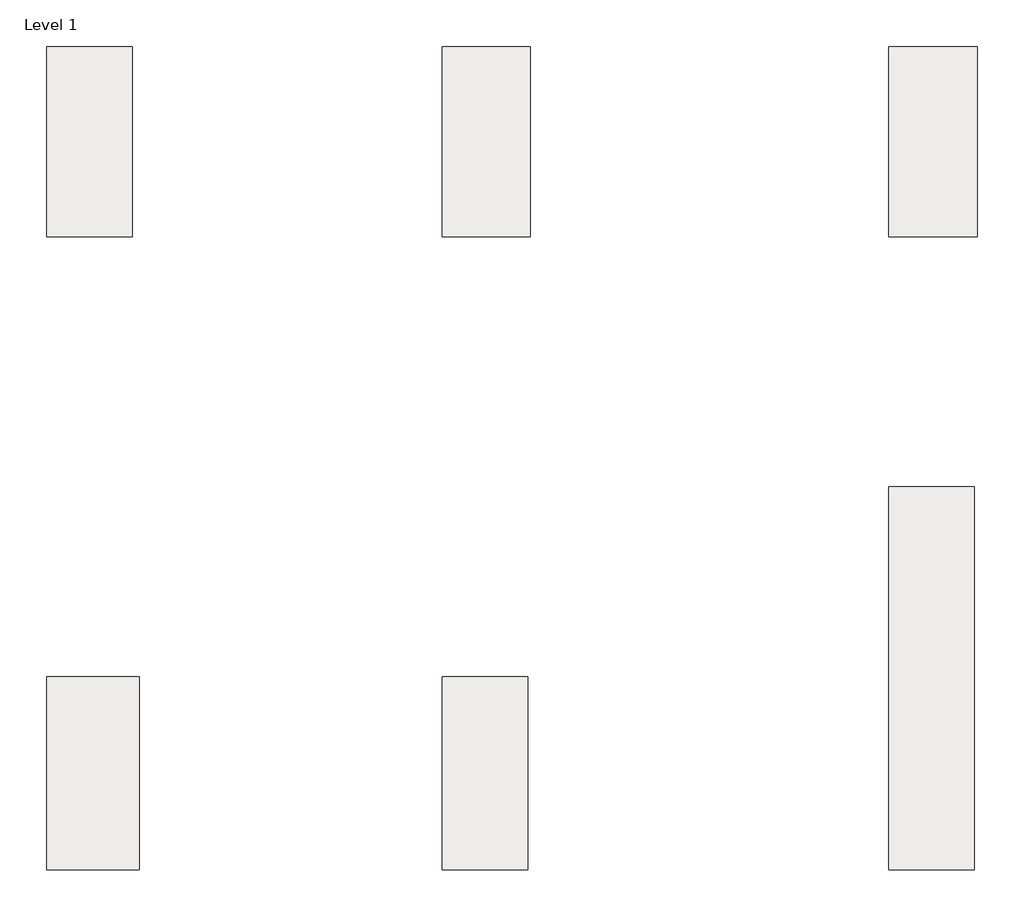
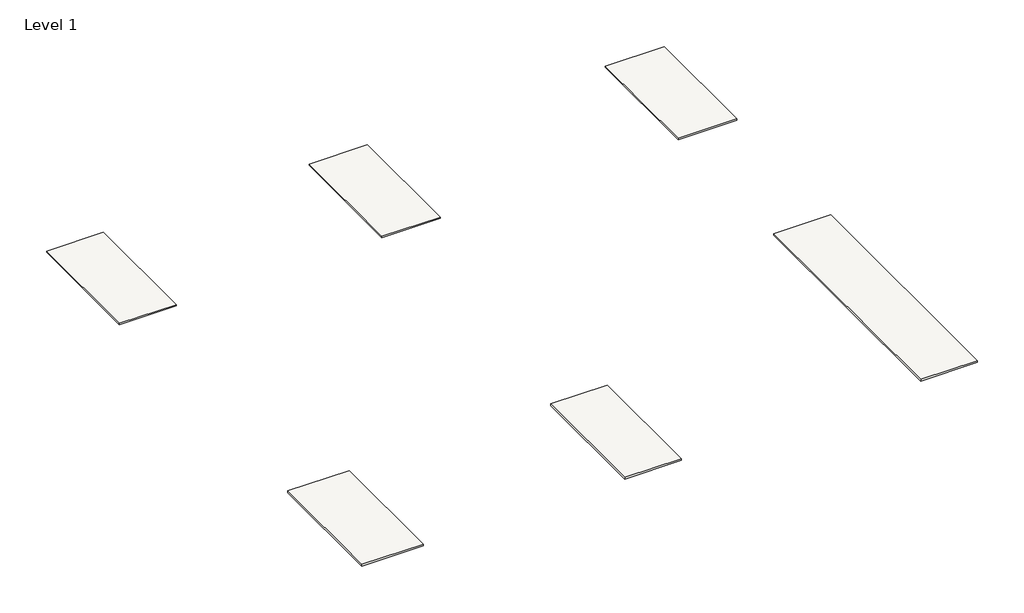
# One storey: 6 slabs.
"""IFC4 building model written with IfcOpenShell, lengths in millimetres."""

from ifc_helpers import new_model, si_unit, frame, origin, place, context, project, spatial, polyline, outline, extrude, element, save

model = new_model("IFC4")

# Units and contexts
model_context = context("Model", 3, world=origin())
ifc_project = project(units=[si_unit("LENGTHUNIT", "METRE", prefix="MILLI")], contexts=[model_context])

# Site, building, storey
site = spatial("IfcSite", under=ifc_project)
building = spatial("IfcBuilding", under=site)
storey = spatial("IfcBuildingStorey", under=building, Name="Level 1", Elevation=0.0)

# Slabs
placement = place(None, origin())
element("IfcSlab", 1, ObjectType="Silencio - Windproof Board for suspended floor 12mm 540x1200", at=placement, inside=storey, context=model_context, shape_type="SweptSolid", body=[
    extrude(outline(polyline([(-3436.2153489, 1263.7832709), (-3976.2153489, 1263.7832709), (-3976.2153489, 2463.7832709), (-3436.2153489, 2463.7832709), (-3436.2153489, 1263.7832709)])), frame((0.0, 0.0, -12.0), z_axis=(0.0, 0.0, 1.0), x_axis=(1.0, 0.0, 0.0)), (0.0, 0.0, 1.0), 12.0),
])
element("IfcSlab", 2, ObjectType="Silencio - Windproof Board for suspended floor 12mm 555x1200", at=placement, inside=storey, context=model_context, shape_type="SweptSolid", body=[
    extrude(outline(polyline([(-921.2153489, 1263.7832709), (-1476.2153489, 1263.7832709), (-1476.2153489, 2463.7832709), (-921.2153489, 2463.7832709), (-921.2153489, 1263.7832709)])), frame((0.0, 0.0, -12.0), z_axis=(0.0, 0.0, 1.0), x_axis=(1.0, 0.0, 0.0)), (0.0, 0.0, 1.0), 12.0),
])
element("IfcSlab", 3, ObjectType="Silencio - Windproof Board for suspended floor 12mm 560x1200", at=placement, inside=storey, context=model_context, shape_type="SweptSolid", body=[
    extrude(outline(polyline([(1902.5026338, 1263.7832709), (1342.5026338, 1263.7832709), (1342.5026338, 2463.7832709), (1902.5026338, 2463.7832709), (1902.5026338, 1263.7832709)])), frame((0.0, 0.0, -12.0), z_axis=(0.0, 0.0, 1.0), x_axis=(1.0, 0.0, 0.0)), (0.0, 0.0, 1.0), 12.0),
])
element("IfcSlab", 4, ObjectType="Silencio - Windproof Board for suspended floor 18mm 585x1220", at=placement, inside=storey, context=model_context, shape_type="SweptSolid", body=[
    extrude(outline(polyline([(-3391.2153489, -2736.2167291), (-3976.2153489, -2736.2167291), (-3976.2153489, -1516.2167291), (-3391.2153489, -1516.2167291), (-3391.2153489, -2736.2167291)])), frame((0.0, 0.0, -18.0), z_axis=(0.0, 0.0, 1.0), x_axis=(1.0, 0.0, 0.0)), (0.0, 0.0, 1.0), 18.0),
])
element("IfcSlab", 5, ObjectType="Silencio - Windproof Board for suspended floor 18mm 540x1220", at=placement, inside=storey, context=model_context, shape_type="SweptSolid", body=[
    extrude(outline(polyline([(-936.2153489, -2736.2167291), (-1476.2153489, -2736.2167291), (-1476.2153489, -1516.2167291), (-936.2153489, -1516.2167291), (-936.2153489, -2736.2167291)])), frame((0.0, 0.0, -18.0), z_axis=(0.0, 0.0, 1.0), x_axis=(1.0, 0.0, 0.0)), (0.0, 0.0, 1.0), 18.0),
])
element("IfcSlab", 6, ObjectType="Silencio - Windproof Board for suspended floor 18mm 540x2420", at=placement, inside=storey, context=model_context, shape_type="SweptSolid", body=[
    extrude(outline(polyline([(1882.5026338, -2736.2167291), (1342.5026338, -2736.2167291), (1342.5026338, -316.2167291), (1882.5026338, -316.2167291), (1882.5026338, -2736.2167291)])), frame((0.0, 0.0, -18.0), z_axis=(0.0, 0.0, 1.0), x_axis=(1.0, 0.0, 0.0)), (0.0, 0.0, 1.0), 18.0),
])

save(model, "model.ifc")
